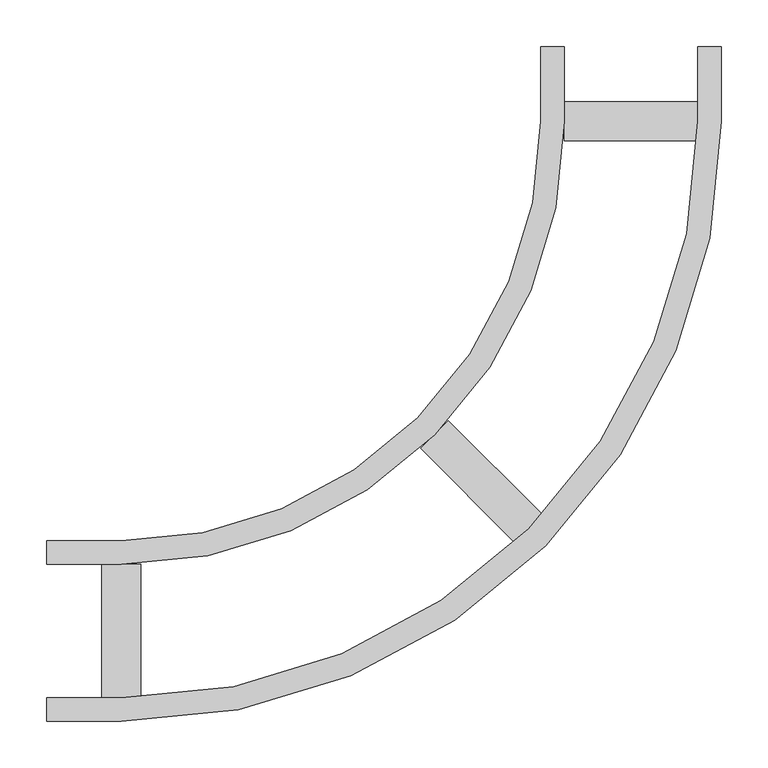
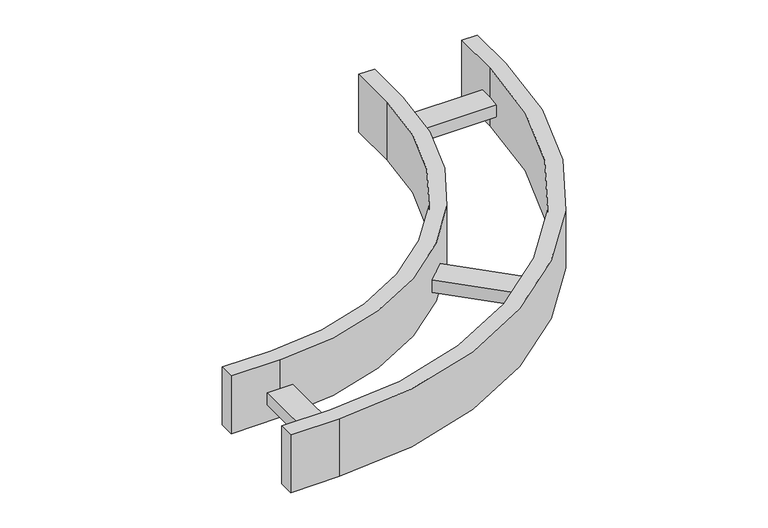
"""IFC4 building model written with IfcOpenShell, lengths in millimetres: cable carrier fitting geometry, Legrand_CableLadder_Swifts_Topaz_FlatBend-13 : Hot Dip Galvanised (after manufacture)."""

from ifc_helpers import new_model, si_unit, point, frame, frame_2d, origin, place, context, project, spatial, polyline, circle_curve, trimmed, segment, composite_curve, outline, extrude, source, transform, mapped, element, save


def cable_carrier_fitting_87adf0dc(model_context):
    return source(origin(), model_context, "Body", "SweptSolid", [
        extrude(outline(polyline([(-124.5036982, 94.8052134), (-225.619968, 195.9214831), (-195.9214831, 225.619968), (-94.8052134, 124.5036982), (-124.5036982, 94.8052134)])), frame((0.0, 0.0, -21.0), z_axis=(0.0, 0.0, 1.0), x_axis=(1.0, 0.0, 0.0)), (0.0, 0.0, 1.0), 21.0),
        extrude(outline(polyline([(-568.0, -71.5), (-568.0, 71.5), (-526.0, 71.5), (-526.0, -71.5), (-568.0, -71.5)])), frame((0.0, 0.0, -21.0), z_axis=(0.0, 0.0, 1.0), x_axis=(1.0, 0.0, 0.0)), (0.0, 0.0, 1.0), 21.0),
        extrude(outline(polyline([(71.5, 526.0), (-71.5, 526.0), (-71.5, 568.0), (71.5, 568.0), (71.5, 526.0)])), frame((0.0, 0.0, -21.0), z_axis=(0.0, 0.0, 1.0), x_axis=(1.0, 0.0, 0.0)), (0.0, 0.0, 1.0), 21.0),
        extrude(outline(composite_curve([segment(polyline([(-627.0, -97.0), (-627.0, -71.5), (-547.0, -71.5)]), True, "CONTINUOUS"), segment(trimmed(circle_curve(frame_2d((-547.0, 547.0)), 618.5), [point((-547.0, -71.5))], [point((71.5, 547.0))], True, "CARTESIAN"), True, "CONTINUOUS"), segment(polyline([(71.5, 547.0), (71.5, 627.0), (97.0, 627.0), (97.0, 547.0)]), True, "CONTINUOUS"), segment(trimmed(circle_curve(frame_2d((-547.0, 547.0)), 644.0), [point((97.0, 547.0))], [point((-547.0, -97.0))], False, "CARTESIAN"), True, "CONTINUOUS"), segment(polyline([(-547.0, -97.0), (-627.0, -97.0)]), True, "CONTINUOUS")], self_intersect=False)), frame((0.0, 0.0, -50.0), z_axis=(0.0, 0.0, 1.0), x_axis=(1.0, 0.0, 0.0)), (0.0, 0.0, 1.0), 100.0),
        extrude(outline(composite_curve([segment(polyline([(-627.0, 71.5), (-627.0, 97.0), (-547.0, 97.0)]), True, "CONTINUOUS"), segment(trimmed(circle_curve(frame_2d((-547.0, 547.0)), 450.0), [point((-547.0, 97.0))], [point((-97.0, 547.0))], True, "CARTESIAN"), True, "CONTINUOUS"), segment(polyline([(-97.0, 547.0), (-97.0, 627.0), (-71.5, 627.0), (-71.5, 547.0)]), True, "CONTINUOUS"), segment(trimmed(circle_curve(frame_2d((-547.0, 547.0)), 475.5), [point((-71.5, 547.0))], [point((-547.0, 71.5))], False, "CARTESIAN"), True, "CONTINUOUS"), segment(polyline([(-547.0, 71.5), (-627.0, 71.5)]), True, "CONTINUOUS")], self_intersect=False)), frame((0.0, 0.0, -50.0), z_axis=(0.0, 0.0, 1.0), x_axis=(1.0, 0.0, 0.0)), (0.0, 0.0, 1.0), 100.0),
    ])


if __name__ == "__main__":
    model = new_model("IFC4")
    model_context = context("Model", 3, world=origin())
    ifc_project = project(units=[si_unit("LENGTHUNIT", "METRE", prefix="MILLI")], contexts=[model_context])
    site = spatial("IfcSite", under=ifc_project)
    building = spatial("IfcBuilding", under=site)
    placement = place(None, origin())
    cable_carrier_fitting_shape = cable_carrier_fitting_87adf0dc(model_context)
    element("IfcCableCarrierFitting", 1, ObjectType="Legrand_CableLadder_Swifts_Topaz_FlatBend-13 : Hot Dip Galvanised (after manufacture)", at=placement, inside=building, context=model_context, shape_type="MappedRepresentation", body=[
        mapped(cable_carrier_fitting_shape, transform((0.0, 0.0, 0.0), x_axis=(1.0, 0.0, 0.0), y_axis=(0.0, 1.0, 0.0), z_axis=(0.0, 0.0, 1.0))),
    ])
    save(model, "model.ifc")
